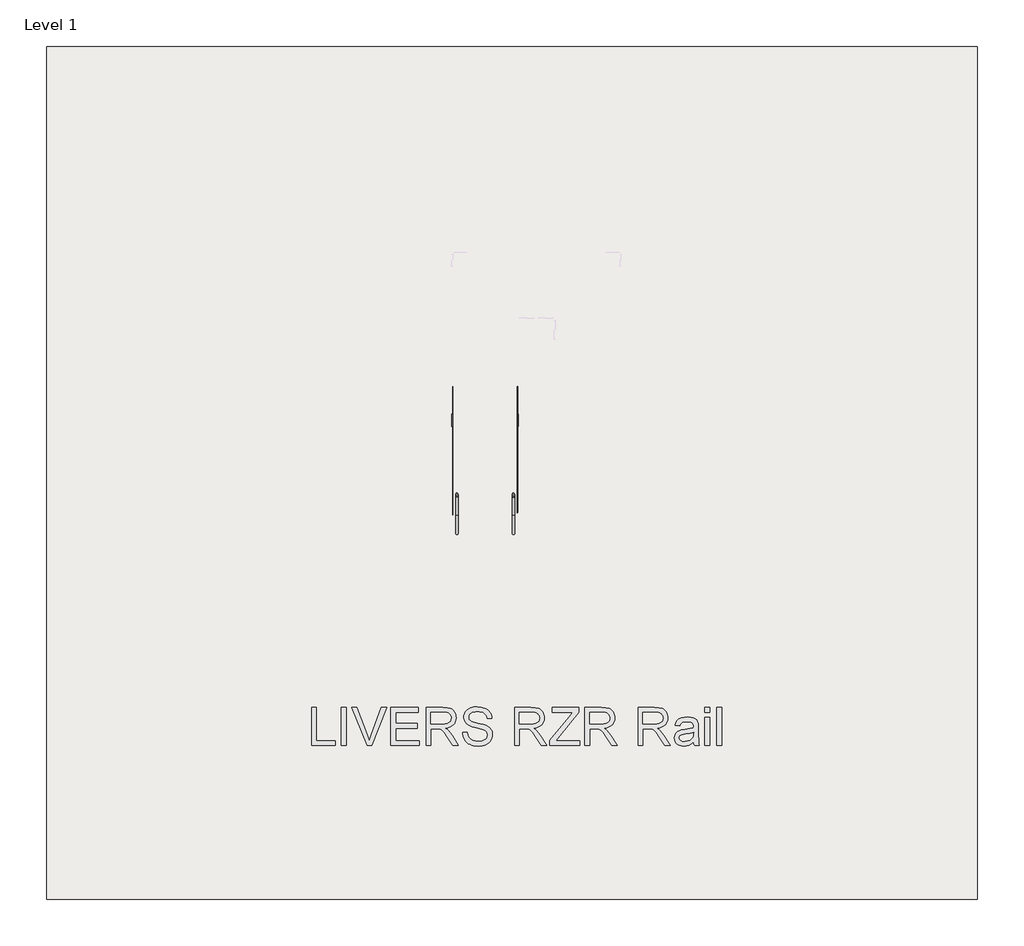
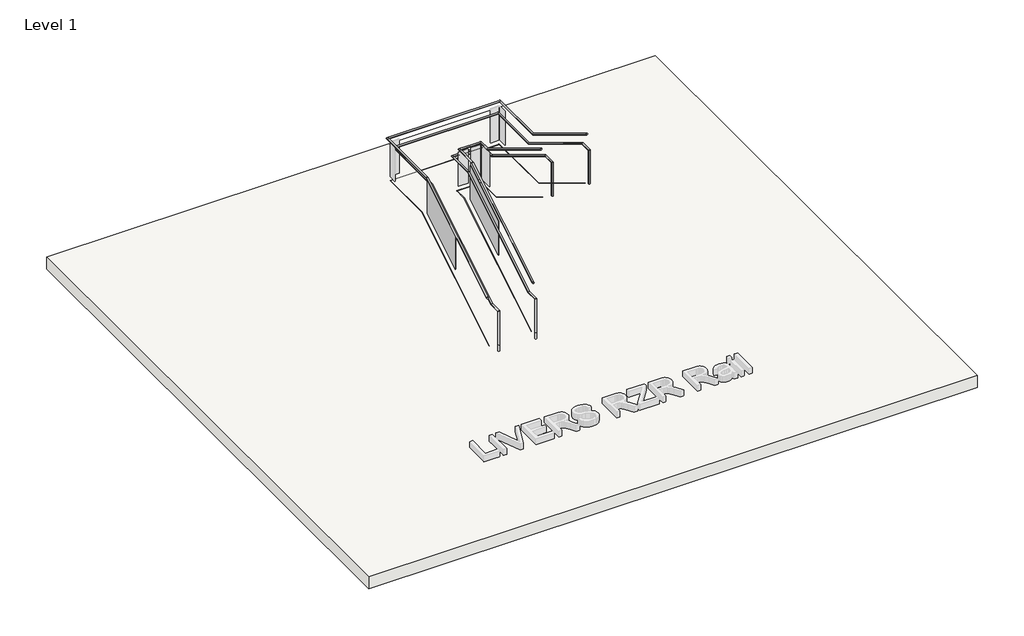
# One storey, part 1 of 2: 2 proxies, 2 railings, 1 slab.
"""IFC4 building model written with IfcOpenShell, lengths in millimetres."""

from ifc_helpers import new_model, si_unit, frame, origin, place, context, project, spatial, polyline, circle_curve, ellipse_curve, outline, extrude, transform, mapped, element, save
from ifc_brep_helpers import plane_surface, cylinder_surface, advanced_brep
from components import building_element_proxy_1adf6c0d, building_element_proxy_bc4816d1

model = new_model("IFC4")

# Units and contexts
model_context = context("Model", 3, world=origin())
ifc_project = project(units=[si_unit("LENGTHUNIT", "METRE", prefix="MILLI")], contexts=[model_context])

# Site, building, storey
site = spatial("IfcSite", under=ifc_project)
building = spatial("IfcBuilding", under=site)
storey = spatial("IfcBuildingStorey", under=building, Name="Level 1", Elevation=0.0)

# Proxies
placement = place(None, origin())
building_element_proxy_shape = building_element_proxy_1adf6c0d(model_context)
element("IfcBuildingElementProxy", 1, Name="LIVERS_RZR - Glass Panel : LIVERS_RZR - Glass Panel", ObjectType="LIVERS_RZR - Glass Panel : LIVERS_RZR - Glass Panel", at=placement, inside=storey, context=model_context, shape_type="MappedRepresentation", body=[
    mapped(building_element_proxy_shape, transform((29702.5380155, -11382.4092974, 1420.43962), x_axis=(0.0, 1.0, 0.0), y_axis=(-1.0, 0.0, 0.0), z_axis=(0.0, 0.0, 1.0))),
])
building_element_proxy_2_shape = building_element_proxy_bc4816d1(model_context)
element("IfcBuildingElementProxy", 2, Name="LIVERS_RZR - Glass Panel : LIVERS_RZR - Glass Panel", ObjectType="LIVERS_RZR - Glass Panel : LIVERS_RZR - Glass Panel", at=placement, inside=storey, context=model_context, shape_type="MappedRepresentation", body=[
    mapped(building_element_proxy_2_shape, transform((30718.5380155, -10263.0718331, 1359.9168711), x_axis=(0.0, -1.0, 0.0), y_axis=(1.0, 0.0, 0.0), z_axis=(0.0, 0.0, 1.0))),
])

# Railings
element("IfcRailing", 3, ObjectType="LIVERS_RZR", at=placement, inside=storey, context=model_context, shape_type="AdvancedBrep", body=[
    advanced_brep(
    [(29746.9880155, -13143.8736898, 169.3333333), (29785.0880155, -13143.8736898, 169.3333333), (29785.0880155, -13143.8736898, 1013.8833333), (29746.9880155, -13143.8736898, 1013.8833333), (29785.0880155, -12852.8015363, 1013.8833333), (29746.9880155, -12852.8015363, 1013.8833333), (29785.0880155, -10338.2015363, 2537.8833333), (29746.9880155, -10338.2015363, 2537.8833333), (29785.0880155, -8817.0950361, 2537.8833333), (29746.9880155, -8778.9950361, 2537.8833333), (32245.6060196, -8817.0950361, 2537.8833333), (32283.7060196, -8778.9950361, 2537.8833333), (32245.6060196, -10069.4458434, 2537.8833333), (32283.7060196, -10069.4458434, 2537.8833333), (32245.6060196, -12304.6458434, 3892.55), (32283.7060196, -12304.6458434, 3892.55), (32245.6060196, -12585.0736898, 3892.55), (32283.7060196, -12585.0736898, 3892.55), (32245.6060196, -12585.0736898, 3048.0), (32283.7060196, -12585.0736898, 3048.0), (29785.0880155, -13143.8736898, 0.0), (29746.9880155, -13143.8736898, 0.0)],
    [
        (0, 1, circle_curve(frame((29766.0380155, -13143.8736898, 169.3333333), z_axis=(0.0, 0.0, 1.0), x_axis=(-1.0, 0.0, 0.0)), 19.05)),
        (1, 2),
        (2, 3, ellipse_curve(frame((29766.0380155, -13143.8736898, 1013.8833333), z_axis=(0.0, -0.7071067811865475, -0.7071067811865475), x_axis=(0.0, 0.7071067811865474, -0.7071067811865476)), 26.9407684, 19.05)),
        (3, 0),
        (1, 0, circle_curve(frame((29766.0380155, -13143.8736898, 169.3333333), z_axis=(0.0, 0.0, 1.0), x_axis=(-1.0, 0.0, 0.0)), 19.05)),
        (3, 2, ellipse_curve(frame((29766.0380155, -13143.8736898, 1013.8833333), z_axis=(0.0, -0.7071067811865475, -0.7071067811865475), x_axis=(0.0, 0.7071067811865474, -0.7071067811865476)), 26.9407684, 19.05)),
        (2, 4),
        (4, 5, ellipse_curve(frame((29766.0380155, -12852.8015363, 1013.8833333), z_axis=(0.0, -0.9631193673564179, -0.26907449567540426), x_axis=(0.0, -0.26907449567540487, 0.9631193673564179)), 19.7794797, 19.05)),
        (5, 3),
        (5, 4, ellipse_curve(frame((29766.0380155, -12852.8015363, 1013.8833333), z_axis=(0.0, -0.9631193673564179, -0.26907449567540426), x_axis=(0.0, -0.26907449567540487, 0.9631193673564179)), 19.7794797, 19.05)),
        (4, 6),
        (6, 7, ellipse_curve(frame((29766.0380155, -10338.2015363, 2537.8833333), z_axis=(0.0, -0.9631193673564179, -0.2690744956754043), x_axis=(0.0, 0.26907449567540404, -0.9631193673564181)), 19.7794797, 19.05)),
        (7, 5),
        (7, 6, ellipse_curve(frame((29766.0380155, -10338.2015363, 2537.8833333), z_axis=(0.0, -0.9631193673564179, -0.2690744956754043), x_axis=(0.0, 0.26907449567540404, -0.9631193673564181)), 19.7794797, 19.05)),
        (6, 8),
        (8, 9, ellipse_curve(frame((29766.0380155, -8798.0450361, 2537.8833333), z_axis=(-0.7071067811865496, -0.7071067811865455, 0.0), x_axis=(0.7071067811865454, -0.7071067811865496, 0.0)), 26.9407684, 19.05)),
        (9, 7),
        (9, 8, ellipse_curve(frame((29766.0380155, -8798.0450361, 2537.8833333), z_axis=(-0.7071067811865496, -0.7071067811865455, 0.0), x_axis=(0.7071067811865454, -0.7071067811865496, 0.0)), 26.9407684, 19.05)),
        (8, 10),
        (10, 11, ellipse_curve(frame((32264.6560196, -8798.0450361, 2537.8833333), z_axis=(-0.7071067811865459, 0.7071067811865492, 0.0), x_axis=(-0.707106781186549, -0.7071067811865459, 0.0)), 26.9407684, 19.05)),
        (11, 9),
        (11, 10, ellipse_curve(frame((32264.6560196, -8798.0450361, 2537.8833333), z_axis=(-0.7071067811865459, 0.7071067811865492, 0.0), x_axis=(-0.707106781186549, -0.7071067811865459, 0.0)), 26.9407684, 19.05)),
        (10, 12),
        (12, 13, ellipse_curve(frame((32264.6560196, -10069.4458434, 2537.8833333), z_axis=(0.0, 0.963119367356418, -0.26907449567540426), x_axis=(0.0, 0.2690744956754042, 0.9631193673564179)), 19.7794797, 19.05)),
        (13, 11),
        (13, 12, ellipse_curve(frame((32264.6560196, -10069.4458434, 2537.8833333), z_axis=(0.0, 0.963119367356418, -0.26907449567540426), x_axis=(0.0, 0.2690744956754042, 0.9631193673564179)), 19.7794797, 19.05)),
        (12, 14),
        (14, 15, ellipse_curve(frame((32264.6560196, -12304.6458434, 3892.55), z_axis=(0.0, 0.963119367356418, -0.26907449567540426), x_axis=(0.0, -0.26907449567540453, -0.9631193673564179)), 19.7794797, 19.05)),
        (15, 13),
        (15, 14, ellipse_curve(frame((32264.6560196, -12304.6458434, 3892.55), z_axis=(0.0, 0.963119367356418, -0.26907449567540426), x_axis=(0.0, -0.26907449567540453, -0.9631193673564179)), 19.7794797, 19.05)),
        (14, 16),
        (16, 17, ellipse_curve(frame((32264.6560196, -12585.0736898, 3892.55), z_axis=(0.0, 0.7071067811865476, 0.7071067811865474), x_axis=(0.0, 0.7071067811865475, -0.7071067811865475)), 26.9407684, 19.05)),
        (17, 15),
        (17, 16, ellipse_curve(frame((32264.6560196, -12585.0736898, 3892.55), z_axis=(0.0, 0.7071067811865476, 0.7071067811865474), x_axis=(0.0, 0.7071067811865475, -0.7071067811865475)), 26.9407684, 19.05)),
        (18, 19, circle_curve(frame((32264.6560196, -12585.0736898, 3048.0), z_axis=(0.0, 0.0, -1.0), x_axis=(1.0, 0.0, 0.0)), 19.05)),
        (19, 18, circle_curve(frame((32264.6560196, -12585.0736898, 3048.0), z_axis=(0.0, 0.0, -1.0), x_axis=(1.0, 0.0, 0.0)), 19.05)),
        (16, 18),
        (19, 17),
        (20, 21, circle_curve(frame((29766.0380155, -13143.8736898, 0.0), z_axis=(0.0, 0.0, -1.0), x_axis=(-1.0, 0.0, 0.0)), 19.05)),
        (21, 20, circle_curve(frame((29766.0380155, -13143.8736898, 0.0), z_axis=(0.0, 0.0, -1.0), x_axis=(-1.0, 0.0, 0.0)), 19.05)),
        (20, 1),
        (0, 21),
    ],
    [
        cylinder_surface(frame((29766.0380155, -13143.8736898, 169.3333333), z_axis=(0.0, 0.0, -1.0), x_axis=(-1.0, 0.0, 0.0)), 19.05),
        cylinder_surface(frame((29766.0380155, -13162.9236898, 1013.8833333), z_axis=(0.0, -1.0, 0.0), x_axis=(-1.0, 0.0, 0.0)), 19.05),
        cylinder_surface(frame((29766.0380155, -12848.2500421, 1016.6418146), z_axis=(0.0, -0.8551978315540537, -0.5183017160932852), x_axis=(-1.0, 0.0, 0.0)), 19.05),
        cylinder_surface(frame((29766.0380155, -10343.5236898, 2537.8833333), z_axis=(0.0, -1.0, 0.0), x_axis=(-1.0, 0.0, 0.0)), 19.05),
        cylinder_surface(frame((29766.0380155, -8798.0450361, 2537.8833333), z_axis=(-1.0, 0.0, 0.0), x_axis=(0.0, 1.0, 0.0)), 19.05),
        cylinder_surface(frame((32264.6560196, -8798.0450361, 2537.8833333), z_axis=(0.0, 1.0, 0.0), x_axis=(1.0, 0.0, 0.0)), 19.05),
        cylinder_surface(frame((32264.6560196, -10073.9973375, 2540.6418146), z_axis=(0.0, 0.8551978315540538, -0.5183017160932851), x_axis=(1.0, 0.0, 0.0)), 19.05),
        cylinder_surface(frame((32264.6560196, -12299.3236898, 3892.55), z_axis=(0.0, 1.0, 0.0), x_axis=(1.0, 0.0, 0.0)), 19.05),
        plane_surface(frame((32264.6560196, -12642.2236898, 3048.0), z_axis=(0.0, 0.0, -1.0), x_axis=(-1.0, 0.0, 0.0))),
        cylinder_surface(frame((32264.6560196, -12585.0736898, 3911.6), z_axis=(0.0, 0.0, 1.0), x_axis=(1.0, 0.0, 0.0)), 19.05),
        plane_surface(frame((29766.0380155, -13201.0236898, 0.0), z_axis=(0.0, 0.0, -1.0), x_axis=(1.0, 0.0, 0.0))),
        cylinder_surface(frame((29766.0380155, -13143.8736898, 0.0), z_axis=(0.0, 0.0, -1.0), x_axis=(-1.0, 0.0, 0.0)), 19.05),
    ],
    [
        (0, [[1, 2, 3, 4]]),
        (0, [[5, -4, 6, -2]]),
        (1, [[-3, 7, 8, 9]]),
        (1, [[-6, -9, 10, -7]]),
        (2, [[-8, 11, 12, 13]]),
        (2, [[-10, -13, 14, -11]]),
        (3, [[-12, 15, 16, 17]]),
        (3, [[-14, -17, 18, -15]]),
        (4, [[-16, 19, 20, 21]]),
        (4, [[-18, -21, 22, -19]]),
        (5, [[-20, 23, 24, 25]]),
        (5, [[-22, -25, 26, -23]]),
        (6, [[-24, 27, 28, 29]]),
        (6, [[-26, -29, 30, -27]]),
        (7, [[-28, 31, 32, 33]]),
        (7, [[-30, -33, 34, -31]]),
        (8, [[35, 36]]),
        (9, [[-32, 37, -36, 38]]),
        (9, [[-34, -38, -35, -37]]),
        (10, [[39, 40]]),
        (11, [[-39, 41, -1, 42]]),
        (11, [[-40, -42, -5, -41]]),
    ],
),
    advanced_brep(
    [(29703.7663605, -12858.1236898, -22.5851124), (29701.3096705, -12858.1236898, -22.5851124), (29703.7663605, -10045.8205046, 1681.8410605), (29701.3096705, -10045.8205046, 1681.8410605), (29703.7663605, -8735.773381, 1681.8410605), (29701.3096705, -8733.3166911, 1681.8410605), (32326.9276746, -8735.773381, 1681.8410605), (32329.3843646, -8733.3166911, 1681.8410605), (32326.9276746, -10361.8268751, 1681.8410605), (32329.3843646, -10361.8268751, 1681.8410605), (32326.9276746, -12299.3236898, 2856.0815543), (32329.3843646, -12299.3236898, 2856.0815543)],
    [
        (0, 1, ellipse_curve(frame((29702.5380155, -12858.1236898, -22.5851124), z_axis=(0.0, -1.0, 0.0), x_axis=(0.0, 0.0, -1.0)), 1.4363285, 1.228345)),
        (1, 0, ellipse_curve(frame((29702.5380155, -12858.1236898, -22.5851124), z_axis=(0.0, -1.0, 0.0), x_axis=(0.0, 0.0, -1.0)), 1.4363285, 1.228345)),
        (0, 2),
        (2, 3, ellipse_curve(frame((29702.5380155, -10045.8205046, 1681.8410605), z_axis=(0.0, -0.963119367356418, -0.2690744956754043), x_axis=(0.0, 0.26907449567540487, -0.9631193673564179)), 1.2753819, 1.228345)),
        (3, 1),
        (3, 2, ellipse_curve(frame((29702.5380155, -10045.8205046, 1681.8410605), z_axis=(0.0, -0.963119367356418, -0.2690744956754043), x_axis=(0.0, 0.26907449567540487, -0.9631193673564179)), 1.2753819, 1.228345)),
        (2, 4),
        (4, 5, ellipse_curve(frame((29702.5380155, -8734.5450361, 1681.8410605), z_axis=(-0.7071067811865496, -0.7071067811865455, 0.0), x_axis=(0.7071067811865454, -0.7071067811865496, 0.0)), 1.7371421, 1.228345)),
        (5, 3),
        (5, 4, ellipse_curve(frame((29702.5380155, -8734.5450361, 1681.8410605), z_axis=(-0.7071067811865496, -0.7071067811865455, 0.0), x_axis=(0.7071067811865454, -0.7071067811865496, 0.0)), 1.7371421, 1.228345)),
        (4, 6),
        (6, 7, ellipse_curve(frame((32328.1560196, -8734.5450361, 1681.8410605), z_axis=(-0.7071067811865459, 0.7071067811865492, 0.0), x_axis=(-0.707106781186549, -0.7071067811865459, 0.0)), 1.7371421, 1.228345)),
        (7, 5),
        (7, 6, ellipse_curve(frame((32328.1560196, -8734.5450361, 1681.8410605), z_axis=(-0.7071067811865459, 0.7071067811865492, 0.0), x_axis=(-0.707106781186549, -0.7071067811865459, 0.0)), 1.7371421, 1.228345)),
        (6, 8),
        (8, 9, ellipse_curve(frame((32328.1560196, -10361.8268751, 1681.8410605), z_axis=(0.0, 0.963119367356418, -0.26907449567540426), x_axis=(0.0, 0.2690744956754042, 0.963119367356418)), 1.2753819, 1.228345)),
        (9, 7),
        (9, 8, ellipse_curve(frame((32328.1560196, -10361.8268751, 1681.8410605), z_axis=(0.0, 0.963119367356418, -0.26907449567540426), x_axis=(0.0, 0.2690744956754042, 0.963119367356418)), 1.2753819, 1.228345)),
        (10, 11, ellipse_curve(frame((32328.1560196, -12299.3236898, 2856.0815543), z_axis=(0.0, -1.0, 0.0), x_axis=(0.0, 0.0, -1.0)), 1.4363285, 1.228345)),
        (11, 10, ellipse_curve(frame((32328.1560196, -12299.3236898, 2856.0815543), z_axis=(0.0, -1.0, 0.0), x_axis=(0.0, 0.0, -1.0)), 1.4363285, 1.228345)),
        (8, 10),
        (11, 9),
    ],
    [
        plane_surface(frame((29702.5380155, -12858.1236898, 1223.4333333), z_axis=(0.0, -1.0, 0.0), x_axis=(0.0, 0.0, 1.0))),
        cylinder_surface(frame((29702.5380155, -12305.8253861, 312.1411323), z_axis=(0.0, -0.8551978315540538, -0.5183017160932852), x_axis=(-1.0, 0.0, 0.0)), 1.228345),
        cylinder_surface(frame((29702.5380155, -10343.5236898, 1681.8410605), z_axis=(0.0, -1.0, 0.0), x_axis=(-1.0, 0.0, 0.0)), 1.228345),
        cylinder_surface(frame((29702.5380155, -8734.5450361, 1681.8410605), z_axis=(-1.0, 0.0, 0.0), x_axis=(0.0, 1.0, 0.0)), 1.228345),
        cylinder_surface(frame((32328.1560196, -8734.5450361, 1681.8410605), z_axis=(0.0, 1.0, 0.0), x_axis=(1.0, 0.0, 0.0)), 1.228345),
        plane_surface(frame((32328.1560196, -12299.3236898, 4102.1), z_axis=(0.0, -1.0, 0.0), x_axis=(0.0, 0.0, -1.0))),
        cylinder_surface(frame((32328.1560196, -10616.4219935, 1836.1411323), z_axis=(0.0, 0.8551978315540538, -0.5183017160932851), x_axis=(1.0, 0.0, 0.0)), 1.228345),
    ],
    [
        (0, [[1, 2]]),
        (1, [[-1, 3, 4, 5]]),
        (1, [[-2, -5, 6, -3]]),
        (2, [[-4, 7, 8, 9]]),
        (2, [[-6, -9, 10, -7]]),
        (3, [[-8, 11, 12, 13]]),
        (3, [[-10, -13, 14, -11]]),
        (4, [[-12, 15, 16, 17]]),
        (4, [[-14, -17, 18, -15]]),
        (5, [[19, 20]]),
        (6, [[-16, 21, -20, 22]]),
        (6, [[-18, -22, -19, -21]]),
    ],
),
    advanced_brep(
    [(29681.1067655, -12858.1236898, 1213.8577857), (29643.0067655, -12858.1236898, 1213.8577857), (29681.1067655, -10338.2015363, 2741.0833333), (29643.0067655, -10338.2015363, 2741.0833333), (29681.1067655, -8713.1137861, 2741.0833333), (29643.0067655, -8675.0137861, 2741.0833333), (32349.5872696, -8713.1137861, 2741.0833333), (32387.6872696, -8675.0137861, 2741.0833333), (32349.5872696, -10069.4458434, 2741.0833333), (32387.6872696, -10069.4458434, 2741.0833333), (32349.5872696, -12299.3236898, 4092.5244524), (32387.6872696, -12299.3236898, 4092.5244524)],
    [
        (0, 1, ellipse_curve(frame((29662.0567655, -12858.1236898, 1213.8577857), z_axis=(0.0, -1.0, 0.0), x_axis=(0.0, 0.0, -1.0)), 22.2755476, 19.05)),
        (1, 0, ellipse_curve(frame((29662.0567655, -12858.1236898, 1213.8577857), z_axis=(0.0, -1.0, 0.0), x_axis=(0.0, 0.0, -1.0)), 22.2755476, 19.05)),
        (0, 2),
        (2, 3, ellipse_curve(frame((29662.0567655, -10338.2015363, 2741.0833333), z_axis=(0.0, -0.963119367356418, -0.2690744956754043), x_axis=(0.0, 0.26907449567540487, -0.9631193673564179)), 19.7794797, 19.05)),
        (3, 1),
        (3, 2, ellipse_curve(frame((29662.0567655, -10338.2015363, 2741.0833333), z_axis=(0.0, -0.963119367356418, -0.2690744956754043), x_axis=(0.0, 0.26907449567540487, -0.9631193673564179)), 19.7794797, 19.05)),
        (2, 4),
        (4, 5, ellipse_curve(frame((29662.0567655, -8694.0637861, 2741.0833333), z_axis=(-0.7071067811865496, -0.7071067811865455, 0.0), x_axis=(0.7071067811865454, -0.7071067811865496, 0.0)), 26.9407684, 19.05)),
        (5, 3),
        (5, 4, ellipse_curve(frame((29662.0567655, -8694.0637861, 2741.0833333), z_axis=(-0.7071067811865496, -0.7071067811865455, 0.0), x_axis=(0.7071067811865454, -0.7071067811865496, 0.0)), 26.9407684, 19.05)),
        (4, 6),
        (6, 7, ellipse_curve(frame((32368.6372696, -8694.0637861, 2741.0833333), z_axis=(-0.7071067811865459, 0.7071067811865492, 0.0), x_axis=(-0.707106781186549, -0.7071067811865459, 0.0)), 26.9407684, 19.05)),
        (7, 5),
        (7, 6, ellipse_curve(frame((32368.6372696, -8694.0637861, 2741.0833333), z_axis=(-0.7071067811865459, 0.7071067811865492, 0.0), x_axis=(-0.707106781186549, -0.7071067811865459, 0.0)), 26.9407684, 19.05)),
        (6, 8),
        (8, 9, ellipse_curve(frame((32368.6372696, -10069.4458434, 2741.0833333), z_axis=(0.0, 0.963119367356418, -0.26907449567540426), x_axis=(0.0, 0.2690744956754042, 0.963119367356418)), 19.7794797, 19.05)),
        (9, 7),
        (9, 8, ellipse_curve(frame((32368.6372696, -10069.4458434, 2741.0833333), z_axis=(0.0, 0.963119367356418, -0.26907449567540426), x_axis=(0.0, 0.2690744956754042, 0.963119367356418)), 19.7794797, 19.05)),
        (10, 11, ellipse_curve(frame((32368.6372696, -12299.3236898, 4092.5244524), z_axis=(0.0, -1.0, 0.0), x_axis=(0.0, 0.0, -1.0)), 22.2755476, 19.05)),
        (11, 10, ellipse_curve(frame((32368.6372696, -12299.3236898, 4092.5244524), z_axis=(0.0, -1.0, 0.0), x_axis=(0.0, 0.0, -1.0)), 22.2755476, 19.05)),
        (8, 10),
        (11, 9),
    ],
    [
        plane_surface(frame((29662.0567655, -12858.1236898, 1236.1333333), z_axis=(0.0, -1.0, 0.0), x_axis=(0.0, 0.0, 1.0))),
        cylinder_surface(frame((29662.0567655, -12848.2500421, 1219.8418146), z_axis=(0.0, -0.8551978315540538, -0.5183017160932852), x_axis=(-1.0, 0.0, 0.0)), 19.05),
        cylinder_surface(frame((29662.0567655, -10343.5236898, 2741.0833333), z_axis=(0.0, -1.0, 0.0), x_axis=(-1.0, 0.0, 0.0)), 19.05),
        cylinder_surface(frame((29662.0567655, -8694.0637861, 2741.0833333), z_axis=(-1.0, 0.0, 0.0), x_axis=(0.0, 1.0, 0.0)), 19.05),
        cylinder_surface(frame((32368.6372696, -8694.0637861, 2741.0833333), z_axis=(0.0, 1.0, 0.0), x_axis=(1.0, 0.0, 0.0)), 19.05),
        plane_surface(frame((32368.6372696, -12299.3236898, 4114.8), z_axis=(0.0, -1.0, 0.0), x_axis=(0.0, 0.0, -1.0))),
        cylinder_surface(frame((32368.6372696, -10073.9973375, 2743.8418146), z_axis=(0.0, 0.8551978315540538, -0.5183017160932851), x_axis=(1.0, 0.0, 0.0)), 19.05),
    ],
    [
        (0, [[1, 2]]),
        (1, [[-1, 3, 4, 5]]),
        (1, [[-2, -5, 6, -3]]),
        (2, [[-4, 7, 8, 9]]),
        (2, [[-6, -9, 10, -7]]),
        (3, [[-8, 11, 12, 13]]),
        (3, [[-10, -13, 14, -11]]),
        (4, [[-12, 15, 16, 17]]),
        (4, [[-14, -17, 18, -15]]),
        (5, [[19, 20]]),
        (6, [[-16, 21, -20, 22]]),
        (6, [[-18, -22, -19, -21]]),
    ],
),
])
element("IfcRailing", 4, ObjectType="LIVERS_RZR", at=placement, inside=storey, context=model_context, shape_type="AdvancedBrep", body=[
    advanced_brep(
    [(30635.9880155, -13143.8736898, 169.3333333), (30674.0880155, -13143.8736898, 169.3333333), (30674.0880155, -13143.8736898, 1013.8833333), (30635.9880155, -13143.8736898, 1013.8833333), (30674.0880155, -12852.8015363, 1013.8833333), (30635.9880155, -12852.8015363, 1013.8833333), (30674.0880155, -10338.2015363, 2537.8833333), (30635.9880155, -10338.2015363, 2537.8833333), (30674.0880155, -9706.0950361, 2537.8833333), (30635.9880155, -9667.9950361, 2537.8833333), (31356.6060196, -9706.0950361, 2537.8833333), (31394.7060196, -9667.9950361, 2537.8833333), (31356.6060196, -10069.4458434, 2537.8833333), (31394.7060196, -10069.4458434, 2537.8833333), (31356.6060196, -12304.6458434, 3892.55), (31394.7060196, -12304.6458434, 3892.55), (31356.6060196, -12585.0736898, 3892.55), (31394.7060196, -12585.0736898, 3892.55), (31356.6060196, -12585.0736898, 3048.0), (31394.7060196, -12585.0736898, 3048.0), (30674.0880155, -13143.8736898, 0.0), (30635.9880155, -13143.8736898, 0.0)],
    [
        (0, 1, circle_curve(frame((30655.0380155, -13143.8736898, 169.3333333), z_axis=(0.0, 0.0, 1.0), x_axis=(-1.0, 0.0, 0.0)), 19.05)),
        (1, 2),
        (2, 3, ellipse_curve(frame((30655.0380155, -13143.8736898, 1013.8833333), z_axis=(0.0, -0.7071067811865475, -0.7071067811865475), x_axis=(0.0, 0.7071067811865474, -0.7071067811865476)), 26.9407684, 19.05)),
        (3, 0),
        (1, 0, circle_curve(frame((30655.0380155, -13143.8736898, 169.3333333), z_axis=(0.0, 0.0, 1.0), x_axis=(-1.0, 0.0, 0.0)), 19.05)),
        (3, 2, ellipse_curve(frame((30655.0380155, -13143.8736898, 1013.8833333), z_axis=(0.0, -0.7071067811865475, -0.7071067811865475), x_axis=(0.0, 0.7071067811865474, -0.7071067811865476)), 26.9407684, 19.05)),
        (2, 4),
        (4, 5, ellipse_curve(frame((30655.0380155, -12852.8015363, 1013.8833333), z_axis=(0.0, -0.9631193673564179, -0.2690744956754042), x_axis=(0.0, -0.26907449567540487, 0.9631193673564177)), 19.7794797, 19.05)),
        (5, 3),
        (5, 4, ellipse_curve(frame((30655.0380155, -12852.8015363, 1013.8833333), z_axis=(0.0, -0.9631193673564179, -0.2690744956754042), x_axis=(0.0, -0.26907449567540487, 0.9631193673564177)), 19.7794797, 19.05)),
        (4, 6),
        (6, 7, ellipse_curve(frame((30655.0380155, -10338.2015363, 2537.8833333), z_axis=(0.0, -0.9631193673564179, -0.2690744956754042), x_axis=(0.0, 0.26907449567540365, -0.9631193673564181)), 19.7794797, 19.05)),
        (7, 5),
        (7, 6, ellipse_curve(frame((30655.0380155, -10338.2015363, 2537.8833333), z_axis=(0.0, -0.9631193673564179, -0.2690744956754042), x_axis=(0.0, 0.26907449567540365, -0.9631193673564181)), 19.7794797, 19.05)),
        (6, 8),
        (8, 9, ellipse_curve(frame((30655.0380155, -9687.0450361, 2537.8833333), z_axis=(-0.7071067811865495, -0.7071067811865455, 0.0), x_axis=(0.7071067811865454, -0.7071067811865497, 0.0)), 26.9407684, 19.05)),
        (9, 7),
        (9, 8, ellipse_curve(frame((30655.0380155, -9687.0450361, 2537.8833333), z_axis=(-0.7071067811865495, -0.7071067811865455, 0.0), x_axis=(0.7071067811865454, -0.7071067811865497, 0.0)), 26.9407684, 19.05)),
        (8, 10),
        (10, 11, ellipse_curve(frame((31375.6560196, -9687.0450361, 2537.8833333), z_axis=(-0.7071067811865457, 0.7071067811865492, 0.0), x_axis=(-0.7071067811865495, -0.7071067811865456, 0.0)), 26.9407684, 19.05)),
        (11, 9),
        (11, 10, ellipse_curve(frame((31375.6560196, -9687.0450361, 2537.8833333), z_axis=(-0.7071067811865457, 0.7071067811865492, 0.0), x_axis=(-0.7071067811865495, -0.7071067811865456, 0.0)), 26.9407684, 19.05)),
        (10, 12),
        (12, 13, ellipse_curve(frame((31375.6560196, -10069.4458434, 2537.8833333), z_axis=(0.0, 0.963119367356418, -0.2690744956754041), x_axis=(0.0, 0.26907449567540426, 0.9631193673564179)), 19.7794797, 19.05)),
        (13, 11),
        (13, 12, ellipse_curve(frame((31375.6560196, -10069.4458434, 2537.8833333), z_axis=(0.0, 0.963119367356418, -0.2690744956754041), x_axis=(0.0, 0.26907449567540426, 0.9631193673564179)), 19.7794797, 19.05)),
        (12, 14),
        (14, 15, ellipse_curve(frame((31375.6560196, -12304.6458434, 3892.55), z_axis=(0.0, 0.963119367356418, -0.2690744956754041), x_axis=(0.0, -0.2690744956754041, -0.9631193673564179)), 19.7794797, 19.05)),
        (15, 13),
        (15, 14, ellipse_curve(frame((31375.6560196, -12304.6458434, 3892.55), z_axis=(0.0, 0.963119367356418, -0.2690744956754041), x_axis=(0.0, -0.2690744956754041, -0.9631193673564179)), 19.7794797, 19.05)),
        (14, 16),
        (16, 17, ellipse_curve(frame((31375.6560196, -12585.0736898, 3892.55), z_axis=(0.0, 0.7071067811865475, 0.7071067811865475), x_axis=(0.0, 0.7071067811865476, -0.7071067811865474)), 26.9407684, 19.05)),
        (17, 15),
        (17, 16, ellipse_curve(frame((31375.6560196, -12585.0736898, 3892.55), z_axis=(0.0, 0.7071067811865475, 0.7071067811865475), x_axis=(0.0, 0.7071067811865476, -0.7071067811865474)), 26.9407684, 19.05)),
        (18, 19, circle_curve(frame((31375.6560196, -12585.0736898, 3048.0), z_axis=(0.0, 0.0, -1.0), x_axis=(1.0, 0.0, 0.0)), 19.05)),
        (19, 18, circle_curve(frame((31375.6560196, -12585.0736898, 3048.0), z_axis=(0.0, 0.0, -1.0), x_axis=(1.0, 0.0, 0.0)), 19.05)),
        (16, 18),
        (19, 17),
        (20, 21, circle_curve(frame((30655.0380155, -13143.8736898, 0.0), z_axis=(0.0, 0.0, -1.0), x_axis=(-1.0, 0.0, 0.0)), 19.05)),
        (21, 20, circle_curve(frame((30655.0380155, -13143.8736898, 0.0), z_axis=(0.0, 0.0, -1.0), x_axis=(-1.0, 0.0, 0.0)), 19.05)),
        (20, 1),
        (0, 21),
    ],
    [
        cylinder_surface(frame((30655.0380155, -13143.8736898, 169.3333333), z_axis=(0.0, 0.0, -1.0), x_axis=(-1.0, 0.0, 0.0)), 19.05),
        cylinder_surface(frame((30655.0380155, -13162.9236898, 1013.8833333), z_axis=(0.0, -1.0, 0.0), x_axis=(-1.0, 0.0, 0.0)), 19.05),
        cylinder_surface(frame((30655.0380155, -12848.2500421, 1016.6418146), z_axis=(0.0, -0.8551978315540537, -0.5183017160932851), x_axis=(-1.0, 0.0, 0.0)), 19.05),
        cylinder_surface(frame((30655.0380155, -10343.5236898, 2537.8833333), z_axis=(0.0, -1.0, 0.0), x_axis=(-1.0, 0.0, 0.0)), 19.05),
        cylinder_surface(frame((30655.0380155, -9687.0450361, 2537.8833333), z_axis=(-1.0, 0.0, 0.0), x_axis=(0.0, 1.0, 0.0)), 19.05),
        cylinder_surface(frame((31375.6560196, -9687.0450361, 2537.8833333), z_axis=(0.0, 1.0, 0.0), x_axis=(1.0, 0.0, 0.0)), 19.05),
        cylinder_surface(frame((31375.6560196, -10073.9973375, 2540.6418146), z_axis=(0.0, 0.8551978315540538, -0.5183017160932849), x_axis=(1.0, 0.0, 0.0)), 19.05),
        cylinder_surface(frame((31375.6560196, -12299.3236898, 3892.55), z_axis=(0.0, 1.0, 0.0), x_axis=(1.0, 0.0, 0.0)), 19.05),
        plane_surface(frame((31375.6560196, -12642.2236898, 3048.0), z_axis=(0.0, 0.0, -1.0), x_axis=(-1.0, 0.0, 0.0))),
        cylinder_surface(frame((31375.6560196, -12585.0736898, 3911.6), z_axis=(0.0, 0.0, 1.0), x_axis=(1.0, 0.0, 0.0)), 19.05),
        plane_surface(frame((30655.0380155, -13201.0236898, 0.0), z_axis=(0.0, 0.0, -1.0), x_axis=(1.0, 0.0, 0.0))),
        cylinder_surface(frame((30655.0380155, -13143.8736898, 0.0), z_axis=(0.0, 0.0, -1.0), x_axis=(-1.0, 0.0, 0.0)), 19.05),
    ],
    [
        (0, [[1, 2, 3, 4]]),
        (0, [[5, -4, 6, -2]]),
        (1, [[-3, 7, 8, 9]]),
        (1, [[-6, -9, 10, -7]]),
        (2, [[-8, 11, 12, 13]]),
        (2, [[-10, -13, 14, -11]]),
        (3, [[-12, 15, 16, 17]]),
        (3, [[-14, -17, 18, -15]]),
        (4, [[-16, 19, 20, 21]]),
        (4, [[-18, -21, 22, -19]]),
        (5, [[-20, 23, 24, 25]]),
        (5, [[-22, -25, 26, -23]]),
        (6, [[-24, 27, 28, 29]]),
        (6, [[-26, -29, 30, -27]]),
        (7, [[-28, 31, 32, 33]]),
        (7, [[-30, -33, 34, -31]]),
        (8, [[35, 36]]),
        (9, [[-32, 37, -36, 38]]),
        (9, [[-34, -38, -35, -37]]),
        (10, [[39, 40]]),
        (11, [[-39, 41, -1, 42]]),
        (11, [[-40, -42, -5, -41]]),
    ],
),
    advanced_brep(
    [(30719.7663605, -12858.1236898, -22.5851124), (30717.3096705, -12858.1236898, -22.5851124), (30719.7663605, -10045.8205046, 1681.8410605), (30717.3096705, -10045.8205046, 1681.8410605), (30719.7663605, -9751.773381, 1681.8410605), (30717.3096705, -9749.3166911, 1681.8410605), (31310.9276746, -9751.773381, 1681.8410605), (31313.3843646, -9749.3166911, 1681.8410605), (31310.9276746, -10361.8268751, 1681.8410605), (31313.3843646, -10361.8268751, 1681.8410605), (31310.9276746, -12299.3236898, 2856.0815543), (31313.3843646, -12299.3236898, 2856.0815543)],
    [
        (0, 1, ellipse_curve(frame((30718.5380155, -12858.1236898, -22.5851124), z_axis=(0.0, -1.0, 0.0), x_axis=(0.0, 0.0, -1.0)), 1.4363285, 1.228345)),
        (1, 0, ellipse_curve(frame((30718.5380155, -12858.1236898, -22.5851124), z_axis=(0.0, -1.0, 0.0), x_axis=(0.0, 0.0, -1.0)), 1.4363285, 1.228345)),
        (0, 2),
        (2, 3, ellipse_curve(frame((30718.5380155, -10045.8205046, 1681.8410605), z_axis=(0.0, -0.9631193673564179, -0.2690744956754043), x_axis=(0.0, 0.26907449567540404, -0.9631193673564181)), 1.2753819, 1.228345)),
        (3, 1),
        (3, 2, ellipse_curve(frame((30718.5380155, -10045.8205046, 1681.8410605), z_axis=(0.0, -0.9631193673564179, -0.2690744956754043), x_axis=(0.0, 0.26907449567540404, -0.9631193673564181)), 1.2753819, 1.228345)),
        (2, 4),
        (4, 5, ellipse_curve(frame((30718.5380155, -9750.5450361, 1681.8410605), z_axis=(-0.7071067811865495, -0.7071067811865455, 0.0), x_axis=(0.7071067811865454, -0.7071067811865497, 0.0)), 1.7371421, 1.228345)),
        (5, 3),
        (5, 4, ellipse_curve(frame((30718.5380155, -9750.5450361, 1681.8410605), z_axis=(-0.7071067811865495, -0.7071067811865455, 0.0), x_axis=(0.7071067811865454, -0.7071067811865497, 0.0)), 1.7371421, 1.228345)),
        (4, 6),
        (6, 7, ellipse_curve(frame((31312.1560196, -9750.5450361, 1681.8410605), z_axis=(-0.7071067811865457, 0.7071067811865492, 0.0), x_axis=(-0.7071067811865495, -0.7071067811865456, 0.0)), 1.7371421, 1.228345)),
        (7, 5),
        (7, 6, ellipse_curve(frame((31312.1560196, -9750.5450361, 1681.8410605), z_axis=(-0.7071067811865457, 0.7071067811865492, 0.0), x_axis=(-0.7071067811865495, -0.7071067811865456, 0.0)), 1.7371421, 1.228345)),
        (6, 8),
        (8, 9, ellipse_curve(frame((31312.1560196, -10361.8268751, 1681.8410605), z_axis=(0.0, 0.963119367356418, -0.26907449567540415), x_axis=(0.0, 0.2690744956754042, 0.9631193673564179)), 1.2753819, 1.228345)),
        (9, 7),
        (9, 8, ellipse_curve(frame((31312.1560196, -10361.8268751, 1681.8410605), z_axis=(0.0, 0.963119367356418, -0.26907449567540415), x_axis=(0.0, 0.2690744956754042, 0.9631193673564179)), 1.2753819, 1.228345)),
        (10, 11, ellipse_curve(frame((31312.1560196, -12299.3236898, 2856.0815543), z_axis=(0.0, -1.0, 0.0), x_axis=(0.0, 0.0, -1.0)), 1.4363285, 1.228345)),
        (11, 10, ellipse_curve(frame((31312.1560196, -12299.3236898, 2856.0815543), z_axis=(0.0, -1.0, 0.0), x_axis=(0.0, 0.0, -1.0)), 1.4363285, 1.228345)),
        (8, 10),
        (11, 9),
    ],
    [
        plane_surface(frame((30718.5380155, -12858.1236898, 1223.4333333), z_axis=(0.0, -1.0, 0.0), x_axis=(0.0, 0.0, 1.0))),
        cylinder_surface(frame((30718.5380155, -12305.8253861, 312.1411323), z_axis=(0.0, -0.8551978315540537, -0.5183017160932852), x_axis=(-1.0, 0.0, 0.0)), 1.228345),
        cylinder_surface(frame((30718.5380155, -10343.5236898, 1681.8410605), z_axis=(0.0, -1.0, 0.0), x_axis=(-1.0, 0.0, 0.0)), 1.228345),
        cylinder_surface(frame((30718.5380155, -9750.5450361, 1681.8410605), z_axis=(-1.0, 0.0, 0.0), x_axis=(0.0, 1.0, 0.0)), 1.228345),
        cylinder_surface(frame((31312.1560196, -9750.5450361, 1681.8410605), z_axis=(0.0, 1.0, 0.0), x_axis=(1.0, 0.0, 0.0)), 1.228345),
        plane_surface(frame((31312.1560196, -12299.3236898, 4102.1), z_axis=(0.0, -1.0, 0.0), x_axis=(0.0, 0.0, -1.0))),
        cylinder_surface(frame((31312.1560196, -10616.4219935, 1836.1411323), z_axis=(0.0, 0.8551978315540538, -0.5183017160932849), x_axis=(1.0, 0.0, 0.0)), 1.228345),
    ],
    [
        (0, [[1, 2]]),
        (1, [[-1, 3, 4, 5]]),
        (1, [[-2, -5, 6, -3]]),
        (2, [[-4, 7, 8, 9]]),
        (2, [[-6, -9, 10, -7]]),
        (3, [[-8, 11, 12, 13]]),
        (3, [[-10, -13, 14, -11]]),
        (4, [[-12, 15, 16, 17]]),
        (4, [[-14, -17, 18, -15]]),
        (5, [[19, 20]]),
        (6, [[-16, 21, -20, 22]]),
        (6, [[-18, -22, -19, -21]]),
    ],
),
    advanced_brep(
    [(30778.0692655, -12858.1236898, 1213.8577857), (30739.9692655, -12858.1236898, 1213.8577857), (30778.0692655, -10338.2015363, 2741.0833333), (30739.9692655, -10338.2015363, 2741.0833333), (30778.0692655, -9810.0762861, 2741.0833333), (30739.9692655, -9771.9762861, 2741.0833333), (31252.6247696, -9810.0762861, 2741.0833333), (31290.7247696, -9771.9762861, 2741.0833333), (31252.6247696, -10069.4458434, 2741.0833333), (31290.7247696, -10069.4458434, 2741.0833333), (31252.6247696, -12299.3236898, 4092.5244524), (31290.7247696, -12299.3236898, 4092.5244524)],
    [
        (0, 1, ellipse_curve(frame((30759.0192655, -12858.1236898, 1213.8577857), z_axis=(0.0, -1.0, 0.0), x_axis=(0.0, 0.0, -1.0)), 22.2755476, 19.05)),
        (1, 0, ellipse_curve(frame((30759.0192655, -12858.1236898, 1213.8577857), z_axis=(0.0, -1.0, 0.0), x_axis=(0.0, 0.0, -1.0)), 22.2755476, 19.05)),
        (0, 2),
        (2, 3, ellipse_curve(frame((30759.0192655, -10338.2015363, 2741.0833333), z_axis=(0.0, -0.9631193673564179, -0.26907449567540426), x_axis=(0.0, 0.2690744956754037, -0.9631193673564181)), 19.7794797, 19.05)),
        (3, 1),
        (3, 2, ellipse_curve(frame((30759.0192655, -10338.2015363, 2741.0833333), z_axis=(0.0, -0.9631193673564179, -0.26907449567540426), x_axis=(0.0, 0.2690744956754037, -0.9631193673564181)), 19.7794797, 19.05)),
        (2, 4),
        (4, 5, ellipse_curve(frame((30759.0192655, -9791.0262861, 2741.0833333), z_axis=(-0.7071067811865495, -0.7071067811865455, 0.0), x_axis=(0.7071067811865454, -0.7071067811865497, 0.0)), 26.9407684, 19.05)),
        (5, 3),
        (5, 4, ellipse_curve(frame((30759.0192655, -9791.0262861, 2741.0833333), z_axis=(-0.7071067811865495, -0.7071067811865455, 0.0), x_axis=(0.7071067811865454, -0.7071067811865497, 0.0)), 26.9407684, 19.05)),
        (4, 6),
        (6, 7, ellipse_curve(frame((31271.6747696, -9791.0262861, 2741.0833333), z_axis=(-0.7071067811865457, 0.7071067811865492, 0.0), x_axis=(-0.7071067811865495, -0.7071067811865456, 0.0)), 26.9407684, 19.05)),
        (7, 5),
        (7, 6, ellipse_curve(frame((31271.6747696, -9791.0262861, 2741.0833333), z_axis=(-0.7071067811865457, 0.7071067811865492, 0.0), x_axis=(-0.7071067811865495, -0.7071067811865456, 0.0)), 26.9407684, 19.05)),
        (6, 8),
        (8, 9, ellipse_curve(frame((31271.6747696, -10069.4458434, 2741.0833333), z_axis=(0.0, 0.963119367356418, -0.26907449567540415), x_axis=(0.0, 0.2690744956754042, 0.9631193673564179)), 19.7794797, 19.05)),
        (9, 7),
        (9, 8, ellipse_curve(frame((31271.6747696, -10069.4458434, 2741.0833333), z_axis=(0.0, 0.963119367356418, -0.26907449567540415), x_axis=(0.0, 0.2690744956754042, 0.9631193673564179)), 19.7794797, 19.05)),
        (10, 11, ellipse_curve(frame((31271.6747696, -12299.3236898, 4092.5244524), z_axis=(0.0, -1.0, 0.0), x_axis=(0.0, 0.0, -1.0)), 22.2755476, 19.05)),
        (11, 10, ellipse_curve(frame((31271.6747696, -12299.3236898, 4092.5244524), z_axis=(0.0, -1.0, 0.0), x_axis=(0.0, 0.0, -1.0)), 22.2755476, 19.05)),
        (8, 10),
        (11, 9),
    ],
    [
        plane_surface(frame((30759.0192655, -12858.1236898, 1236.1333333), z_axis=(0.0, -1.0, 0.0), x_axis=(0.0, 0.0, 1.0))),
        cylinder_surface(frame((30759.0192655, -12848.2500421, 1219.8418146), z_axis=(0.0, -0.8551978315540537, -0.5183017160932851), x_axis=(-1.0, 0.0, 0.0)), 19.05),
        cylinder_surface(frame((30759.0192655, -10343.5236898, 2741.0833333), z_axis=(0.0, -1.0, 0.0), x_axis=(-1.0, 0.0, 0.0)), 19.05),
        cylinder_surface(frame((30759.0192655, -9791.0262861, 2741.0833333), z_axis=(-1.0, 0.0, 0.0), x_axis=(0.0, 1.0, 0.0)), 19.05),
        cylinder_surface(frame((31271.6747696, -9791.0262861, 2741.0833333), z_axis=(0.0, 1.0, 0.0), x_axis=(1.0, 0.0, 0.0)), 19.05),
        plane_surface(frame((31271.6747696, -12299.3236898, 4114.8), z_axis=(0.0, -1.0, 0.0), x_axis=(0.0, 0.0, -1.0))),
        cylinder_surface(frame((31271.6747696, -10073.9973375, 2743.8418146), z_axis=(0.0, 0.8551978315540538, -0.5183017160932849), x_axis=(1.0, 0.0, 0.0)), 19.05),
    ],
    [
        (0, [[1, 2]]),
        (1, [[-1, 3, 4, 5]]),
        (1, [[-2, -5, 6, -3]]),
        (2, [[-4, 7, 8, 9]]),
        (2, [[-6, -9, 10, -7]]),
        (3, [[-8, 11, 12, 13]]),
        (3, [[-10, -13, 14, -11]]),
        (4, [[-12, 15, 16, 17]]),
        (4, [[-14, -17, 18, -15]]),
        (5, [[19, 20]]),
        (6, [[-16, 21, -20, 22]]),
        (6, [[-18, -22, -19, -21]]),
    ],
),
])

# Slab
element("IfcSlab", 5, ObjectType="Generic - 12\"", at=placement, inside=storey, context=model_context, shape_type="SweptSolid", body=[
    extrude(outline(polyline([(37947.4902027, -5488.0258971), (37947.4902027, -18899.2258971), (23317.0902027, -18899.2258971), (23317.0902027, -5488.0258971), (37947.4902027, -5488.0258971)])), frame((0.0, 0.0, -304.8), z_axis=(0.0, 0.0, 1.0), x_axis=(1.0, 0.0, 0.0)), (0.0, 0.0, 1.0), 304.8),
])

save(model, "model.ifc")
